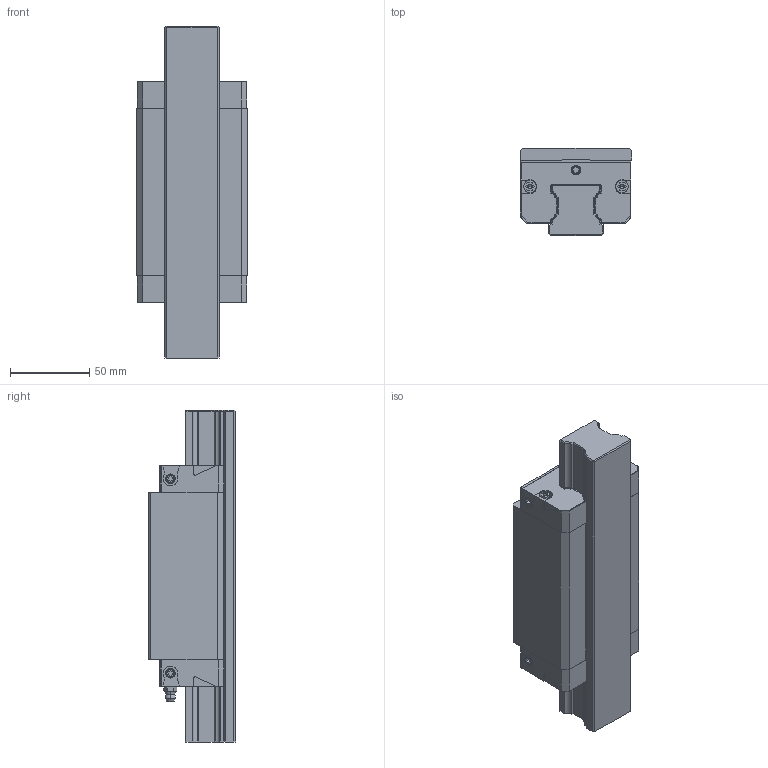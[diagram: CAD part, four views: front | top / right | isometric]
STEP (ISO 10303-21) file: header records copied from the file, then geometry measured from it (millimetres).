
FILE_DESCRIPTION((''),'2;1');
FILE_NAME('KWD_035_SLH_CS__ASM','2021-10-14T07:38:28',('ac91sw'),(''),'CREO PARAMETRIC BY PTC INC, 2020044','CREO PARAMETRIC BY PTC INC, 2020044','');
FILE_SCHEMA(('AUTOMOTIVE_DESIGN { 1 0 10303 214 1 1 1 1 }'));
Length unit declared in the file: millimetre
Products named in the file (7): KWD_035_SLH_CS__SKEL; R201530101; R200130102_Z; R343706101_Z; KWD_035_SLH_CS__PSF; R341700802_Z; KWD_035_SLH_CS__ASM
Assembly tree (11 placements, depth 2):
  KWD_035_SLH_CS__ASM
    KWD_035_SLH_CS__SKEL
    R201530101
    R200130102_Z  x2
    R343706101_Z  x5
    KWD_035_SLH_CS__PSF
    R341700802_Z
Bounding box: 70 x 55 x 209 mm (x, y, z)
Volume: 484723 mm3; surface area: 97628 mm2
Topology: 10 solids, 24 shells, 508 faces, 1302 edges, 822 vertices
Faces by surface type: plane 288, cylinder 142, cone 72, torus 4, sphere 2
Entity records: 16308 total; most frequent: CARTESIAN_POINT 1917, DIRECTION 1624, ORIENTED_EDGE 1524, PROPERTY_DEFINITION 824, REPRESENTATION 815, PROPERTY_DEFINITION_REPRESENTATION 815, EDGE_CURVE 778, DESCRIPTIVE_REPRESENTATION_ITEM 758
